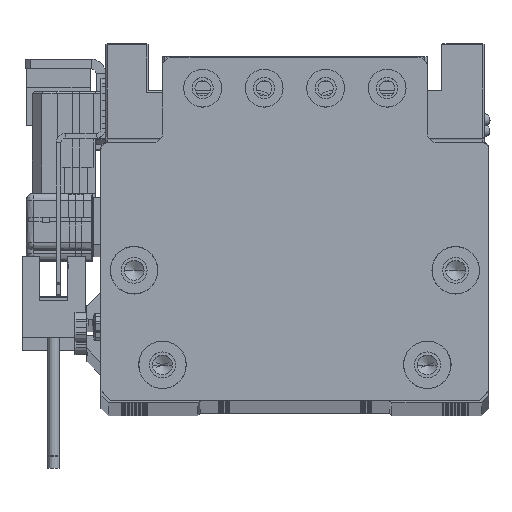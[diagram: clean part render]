
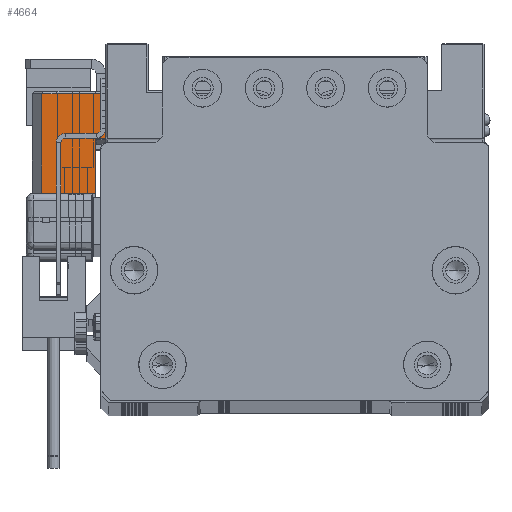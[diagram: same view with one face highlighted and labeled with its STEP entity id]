
A CAD part, top view. The second image highlights one B-rep face of the part: STEP entity #4664.
In plain terms, the highlighted planar face has unit normal (0, 0, 1) as drawn and (1, 0, 0) by its records, which use the part's own axes.
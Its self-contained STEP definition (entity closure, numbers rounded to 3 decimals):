
#2805 = LINE ( 'NONE', #45929, #63133 ) ;
#3897 = CARTESIAN_POINT ( 'NONE',  ( 17., 0.75, -13.3 ) ) ;
#4664 = ADVANCED_FACE ( 'NONE', ( #58821 ), #48218, .T. ) ;
#5627 = DIRECTION ( 'NONE',  ( 0., 1., 0. ) ) ;
#6083 = AXIS2_PLACEMENT_3D ( 'NONE', #48547, #14969, #69077 ) ;
#6644 = CARTESIAN_POINT ( 'NONE',  ( 17., 0.75, -15.5 ) ) ;
#6731 = VERTEX_POINT ( 'NONE', #3897 ) ;
#7593 = CARTESIAN_POINT ( 'NONE',  ( 17., -10.75, -13.3 ) ) ;
#8696 = VERTEX_POINT ( 'NONE', #59847 ) ;
#11277 = EDGE_LOOP ( 'NONE', ( #45804, #12460, #13695, #38529, #68886, #56845 ) ) ;
#12460 = ORIENTED_EDGE ( 'NONE', *, *, #26920, .T. ) ;
#13582 = LINE ( 'NONE', #6644, #68515 ) ;
#13695 = ORIENTED_EDGE ( 'NONE', *, *, #39425, .T. ) ;
#14937 = CARTESIAN_POINT ( 'NONE',  ( 17., -10.75, -13.3 ) ) ;
#14969 = DIRECTION ( 'NONE',  ( 1., 0., 0. ) ) ;
#17290 = DIRECTION ( 'NONE',  ( 0., 0., 1. ) ) ;
#17674 = VERTEX_POINT ( 'NONE', #7593 ) ;
#22823 = EDGE_CURVE ( 'NONE', #17674, #66492, #2805, .T. ) ;
#26920 = EDGE_CURVE ( 'NONE', #8696, #62137, #29314, .T. ) ;
#28375 = VECTOR ( 'NONE', #58095, 1000. ) ;
#29314 = LINE ( 'NONE', #45942, #35233 ) ;
#31032 = EDGE_CURVE ( 'NONE', #57125, #8696, #39182, .T. ) ;
#34056 = DIRECTION ( 'NONE',  ( 0., -1., 0. ) ) ;
#34270 = DIRECTION ( 'NONE',  ( 0., 0., 1. ) ) ;
#34611 = EDGE_CURVE ( 'NONE', #6731, #17674, #68356, .T. ) ;
#35233 = VECTOR ( 'NONE', #34270, 1000. ) ;
#35734 = CARTESIAN_POINT ( 'NONE',  ( 17., 10.25, -2. ) ) ;
#37867 = VECTOR ( 'NONE', #34056, 1000. ) ;
#38529 = ORIENTED_EDGE ( 'NONE', *, *, #22823, .F. ) ;
#39182 = LINE ( 'NONE', #65719, #42262 ) ;
#39425 = EDGE_CURVE ( 'NONE', #62137, #66492, #47922, .T. ) ;
#41706 = CARTESIAN_POINT ( 'NONE',  ( 17., 0.75, -15.5 ) ) ;
#42262 = VECTOR ( 'NONE', #5627, 1000. ) ;
#45804 = ORIENTED_EDGE ( 'NONE', *, *, #31032, .T. ) ;
#45929 = CARTESIAN_POINT ( 'NONE',  ( 17., -10.75, -15.5 ) ) ;
#45942 = CARTESIAN_POINT ( 'NONE',  ( 17., 10.25, -15.5 ) ) ;
#47922 = LINE ( 'NONE', #56325, #37867 ) ;
#48218 = PLANE ( 'NONE',  #6083 ) ;
#48547 = CARTESIAN_POINT ( 'NONE',  ( 17., -10.75, -15.5 ) ) ;
#51689 = CARTESIAN_POINT ( 'NONE',  ( 17., -10.75, -2. ) ) ;
#56244 = EDGE_CURVE ( 'NONE', #57125, #6731, #13582, .T. ) ;
#56325 = CARTESIAN_POINT ( 'NONE',  ( 17., -10.75, -2. ) ) ;
#56845 = ORIENTED_EDGE ( 'NONE', *, *, #56244, .F. ) ;
#57125 = VERTEX_POINT ( 'NONE', #41706 ) ;
#58095 = DIRECTION ( 'NONE',  ( 0., -1., 0. ) ) ;
#58821 = FACE_OUTER_BOUND ( 'NONE', #11277, .T. ) ;
#59847 = CARTESIAN_POINT ( 'NONE',  ( 17., 10.25, -15.5 ) ) ;
#60735 = DIRECTION ( 'NONE',  ( 0., 0., 1. ) ) ;
#62137 = VERTEX_POINT ( 'NONE', #35734 ) ;
#63133 = VECTOR ( 'NONE', #17290, 1000. ) ;
#65719 = CARTESIAN_POINT ( 'NONE',  ( 17., -10.75, -15.5 ) ) ;
#66492 = VERTEX_POINT ( 'NONE', #51689 ) ;
#68356 = LINE ( 'NONE', #14937, #28375 ) ;
#68515 = VECTOR ( 'NONE', #60735, 1000. ) ;
#68886 = ORIENTED_EDGE ( 'NONE', *, *, #34611, .F. ) ;
#69077 = DIRECTION ( 'NONE',  ( 0., 0., -1. ) ) ;
